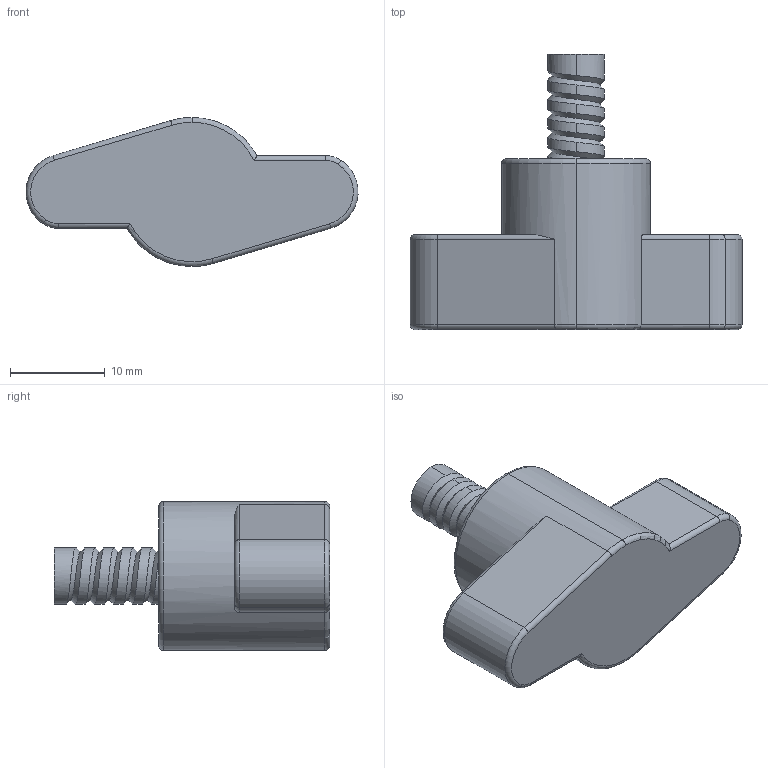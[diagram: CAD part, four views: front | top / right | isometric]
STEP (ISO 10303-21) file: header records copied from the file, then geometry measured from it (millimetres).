
FILE_DESCRIPTION (( 'STEP AP203' ), '1' );
FILE_NAME ('AP-2061-35-M6-10.STEP', '2015-11-23T07:23:14', ( '' ), ( '' ), 'SwSTEP 2.0', 'SolidWorks 2014', '' );
FILE_SCHEMA (( 'CONFIG_CONTROL_DESIGN' ));
Length unit declared in the file: millimetre
Products named in the file (1): AP-2061-35-M6-10
Bounding box: 34.99 x 29 x 15.7 mm (x, y, z)
Volume: 4316.3 mm3; surface area: 5130.3 mm2
Topology: 1 solids, 1 shells, 88 faces, 232 edges, 147 vertices
Faces by surface type: cylinder 40, plane 33, torus 13, bspline 2
Entity records: 3284 total; most frequent: CARTESIAN_POINT 1040, DIRECTION 469, ORIENTED_EDGE 464, EDGE_CURVE 232, AXIS2_PLACEMENT_3D 181, VERTEX_POINT 147, LINE 107, VECTOR 107
